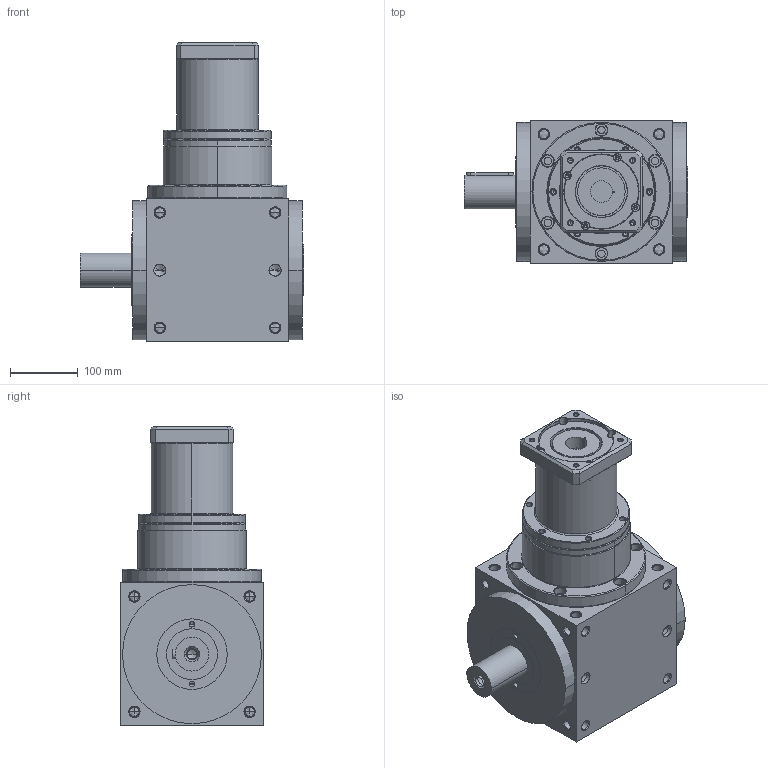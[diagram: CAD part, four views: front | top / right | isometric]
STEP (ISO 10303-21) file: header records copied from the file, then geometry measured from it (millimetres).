
FILE_DESCRIPTION((''),'2;1');
FILE_NAME('AT210FL12-P0405400501_ASM','2009-01-20T',('d00176'),(''),'PRO/ENGINEER BY PARAMETRIC TECHNOLOGY CORPORATION, 2006170','PRO/ENGINEER BY PARAMETRIC TECHNOLOGY CORPORATION, 2006170','');
FILE_SCHEMA(('CONFIG_CONTROL_DESIGN'));
Length unit declared in the file: millimetre
Products named in the file (5): ATFL1-HOUSING-2-8; P1801800001; P0226800001; P0405400501; AT210FL12-P0405400501_ASM
Assembly tree (4 placements, depth 2):
  AT210FL12-P0405400501_ASM
    ATFL1-HOUSING-2-8
    P1801800001
    P0226800001
    P0405400501
Bounding box: 329 x 210 x 440.5 mm (x, y, z)
Volume: 13060001.4 mm3; surface area: 716051.9 mm2
Topology: 4 solids, 43 shells, 821 faces, 2017 edges, 1185 vertices
Faces by surface type: cylinder 352, cone 286, plane 113, torus 50, bspline 20
Entity records: 25251 total; most frequent: CARTESIAN_POINT 5912, DIRECTION 4337, ORIENTED_EDGE 3690, EDGE_CURVE 1923, AXIS2_PLACEMENT_3D 1806, VERTEX_POINT 1185, CIRCLE 988, EDGE_LOOP 968
